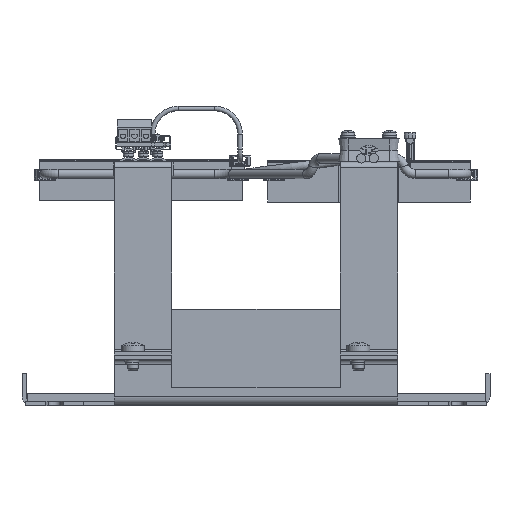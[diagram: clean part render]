
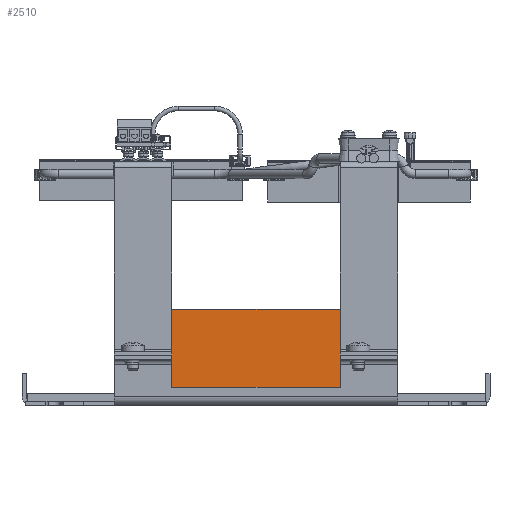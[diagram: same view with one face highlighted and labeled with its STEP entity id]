
A CAD part, front view. The second image highlights one B-rep face of the part: STEP entity #2510.
In plain terms, the highlighted planar face has unit normal (0, -1, 0).
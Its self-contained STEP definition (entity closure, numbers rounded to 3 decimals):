
#1249=CARTESIAN_POINT('',(-36.5,76.5,42.0));
#1250=VERTEX_POINT('',#1249);
#1257=CARTESIAN_POINT('',(36.5,76.5,42.0));
#1258=VERTEX_POINT('',#1257);
#1259=CARTESIAN_POINT('',(36.5,76.5,42.0));
#1260=DIRECTION('',(-1.0,0.0,0.0));
#1261=VECTOR('',#1260,73.);
#1262=LINE('',#1259,#1261);
#1263=EDGE_CURVE('',#1258,#1250,#1262,.T.);
#1385=CARTESIAN_POINT('',(61.5,76.5,42.0));
#1386=VERTEX_POINT('',#1385);
#1387=CARTESIAN_POINT('',(61.5,76.5,42.0));
#1388=DIRECTION('',(-1.0,0.0,0.0));
#1389=VECTOR('',#1388,25.0);
#1390=LINE('',#1387,#1389);
#1391=EDGE_CURVE('',#1386,#1258,#1390,.T.);
#1425=CARTESIAN_POINT('',(-61.5,76.5,42.0));
#1426=VERTEX_POINT('',#1425);
#1434=CARTESIAN_POINT('',(-36.5,76.5,42.0));
#1435=DIRECTION('',(-1.0,0.0,0.0));
#1436=VECTOR('',#1435,25.0);
#1437=LINE('',#1434,#1436);
#1438=EDGE_CURVE('',#1250,#1426,#1437,.T.);
#2339=CARTESIAN_POINT('',(61.5,76.5,4.));
#2340=VERTEX_POINT('',#2339);
#2341=CARTESIAN_POINT('',(61.5,76.5,4.));
#2342=DIRECTION('',(0.0,0.0,1.0));
#2343=VECTOR('',#2342,38.);
#2344=LINE('',#2341,#2343);
#2345=EDGE_CURVE('',#2340,#1386,#2344,.T.);
#2456=CARTESIAN_POINT('',(-61.5,76.5,4.));
#2457=VERTEX_POINT('',#2456);
#2465=CARTESIAN_POINT('',(-61.5,76.5,42.0));
#2466=DIRECTION('',(0.0,0.0,-1.0));
#2467=VECTOR('',#2466,38.);
#2468=LINE('',#2465,#2467);
#2469=EDGE_CURVE('',#1426,#2457,#2468,.T.);
#2492=CARTESIAN_POINT('',(61.5,76.5,46.));
#2493=DIRECTION('',(0.0,-1.0,0.0));
#2494=DIRECTION('',(0.0,0.0,-1.0));
#2495=AXIS2_PLACEMENT_3D('',#2492,#2493,#2494);
#2496=PLANE('',#2495);
#2497=ORIENTED_EDGE('',*,*,#1391,.T.);
#2498=ORIENTED_EDGE('',*,*,#1263,.T.);
#2499=ORIENTED_EDGE('',*,*,#1438,.T.);
#2500=ORIENTED_EDGE('',*,*,#2469,.T.);
#2501=CARTESIAN_POINT('',(61.5,76.5,4.));
#2502=DIRECTION('',(-1.0,0.0,0.0));
#2503=VECTOR('',#2502,123.);
#2504=LINE('',#2501,#2503);
#2505=EDGE_CURVE('',#2340,#2457,#2504,.T.);
#2506=ORIENTED_EDGE('',*,*,#2505,.F.);
#2507=ORIENTED_EDGE('',*,*,#2345,.T.);
#2508=EDGE_LOOP('',(#2497,#2498,#2499,#2500,#2506,#2507));
#2509=FACE_OUTER_BOUND('',#2508,.T.);
#2510=ADVANCED_FACE('',(#2509),#2496,.T.);
